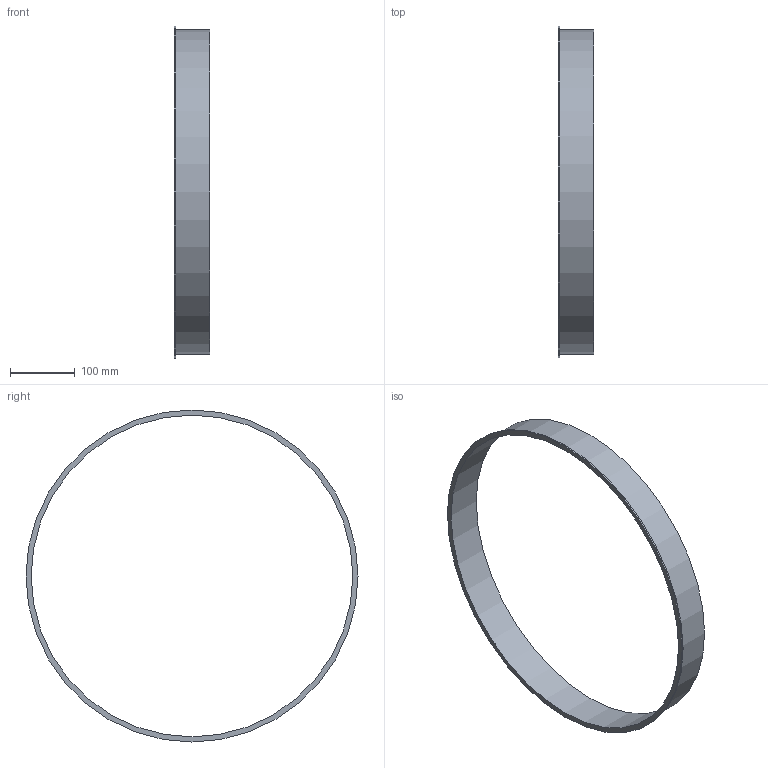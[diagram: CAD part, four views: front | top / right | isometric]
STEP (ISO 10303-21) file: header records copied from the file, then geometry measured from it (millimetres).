
FILE_DESCRIPTION((''),'2;1');
FILE_NAME('U:\Wolfgang\Marcel-3D\fertig\Kapitel 1\5021012.stp','2010-05-31T12:36:34',('TK2'),(''),'Autodesk Inventor 2010','Autodesk Inventor 2010','');
FILE_SCHEMA(('AUTOMOTIVE_DESIGN { 1 0 10303 214 1 1 1 1 }'));
Length unit declared in the file: millimetre
Products named in the file (1): 5021012
Bounding box: 55 x 514 x 514 mm (x, y, z)
Volume: 191938.7 mm3; surface area: 198297.3 mm2
Topology: 1 solids, 1 shells, 6 faces, 9 edges, 6 vertices
Faces by surface type: cylinder 3, plane 3
Full cylindrical faces by diameter (mm): 498 x1, 502 x1, 514 x1
Entity records: 154 total; most frequent: DIRECTION 26, CARTESIAN_POINT 19, AXIS2_PLACEMENT_3D 13, ORIENTED_EDGE 12, EDGE_LOOP 12, VERTEX_POINT 6, CIRCLE 6, EDGE_CURVE 6
